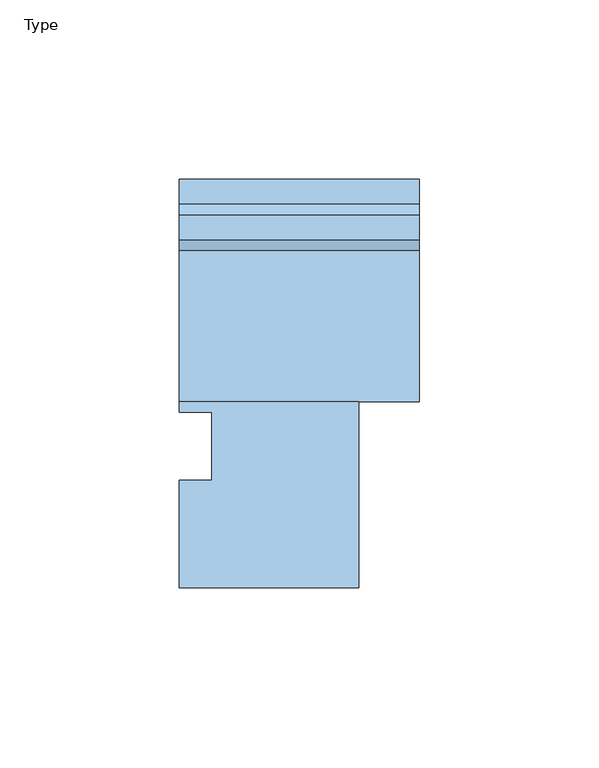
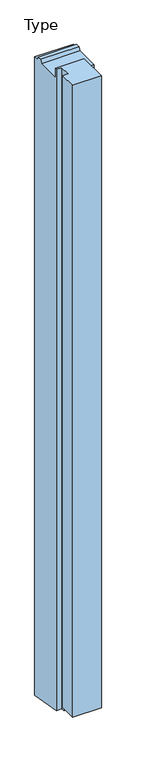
"""IFC4 building model written with IfcOpenShell, lengths in millimetres: window geometry, NLRS_30_MC_zijstijll_vg_bis_67x114 : Type."""

from ifc_helpers import new_model, si_unit, origin, place, context, project, spatial, faceted_brep, source, transform, mapped, element, save


def type_42751e48(model_context):
    return source(origin(), model_context, "Body", "Brep", [
        faceted_brep([(50.0, -114.0, 1224.4), (50.0, -114.0, 67.0), (50.0, -72.0, 67.0), (50.0, -72.0, 51.0), (50.0, -62.0, 49.2361111), (50.0, -62.0, 1207.4), (50.0, -62.0, 1224.4), (67.0, -62.0, 49.2361111), (67.0, -62.0, 1207.4), (67.0, 0.0, 38.3), (67.0, 0.0, 1207.4), (67.0, -7.0, 1207.4), (67.0, -10.0, 1213.4), (67.0, -17.0, 1213.4), (67.0, -20.0, 1207.4), (0.0, 0.0, 38.3), (0.0, 0.0, 1207.4), (0.0, -62.0, 1224.4), (0.0, -62.0, 1207.4), (0.0, -20.0, 1207.4), (0.0, -17.0, 1213.4), (0.0, -10.0, 1213.4), (0.0, -7.0, 1207.4), (0.0, -65.0, 49.7652778), (0.0, -65.0, 1224.4), (9.0, -65.0, 49.7652778), (9.0, -65.0, 1224.4), (9.0, -72.0, 51.0), (9.0, -72.0, 67.0), (9.0, -84.0, 67.0), (9.0, -84.0, 1224.4), (0.0, -84.0, 67.0), (0.0, -84.0, 1224.4), (0.0, -114.0, 67.0), (0.0, -114.0, 1224.4)], [[[0, 1, 2, 3, 4, 5, 6]], [[5, 4, 7, 8]], [[8, 7, 9, 10, 11, 12, 13, 14]], [[10, 9, 15, 16]], [[17, 18, 19, 20, 21, 22, 16, 15, 23, 24]], [[24, 23, 25, 26]], [[26, 25, 27, 28, 29, 30]], [[30, 29, 31, 32]], [[32, 31, 33, 34]], [[34, 33, 1, 0]], [[27, 25, 23, 15, 9, 7, 4, 3]], [[3, 2, 28, 27]], [[2, 1, 33, 31, 29, 28]], [[17, 24, 26, 30, 32, 34, 0, 6]], [[6, 5, 18, 17]], [[19, 18, 5, 8, 14]], [[14, 13, 20, 19]], [[13, 12, 21, 20]], [[12, 11, 22, 21]], [[11, 10, 16, 22]]]),
    ])


if __name__ == "__main__":
    model = new_model("IFC4")
    model_context = context("Model", 3, world=origin())
    ifc_project = project(units=[si_unit("LENGTHUNIT", "METRE", prefix="MILLI")], contexts=[model_context])
    site = spatial("IfcSite", under=ifc_project)
    building = spatial("IfcBuilding", under=site)
    placement = place(None, origin())
    ifc_type_shape = type_42751e48(model_context)
    element("IfcWindow", 1, ObjectType="NLRS_30_MC_zijstijll_vg_bis_67x114 : Type", at=placement, inside=building, context=model_context, shape_type="MappedRepresentation", body=[
        mapped(ifc_type_shape, transform((0.0, 0.0, 0.0), x_axis=(1.0, 0.0, 0.0), y_axis=(0.0, 1.0, 0.0), z_axis=(0.0, 0.0, 1.0))),
    ])
    save(model, "model.ifc")
